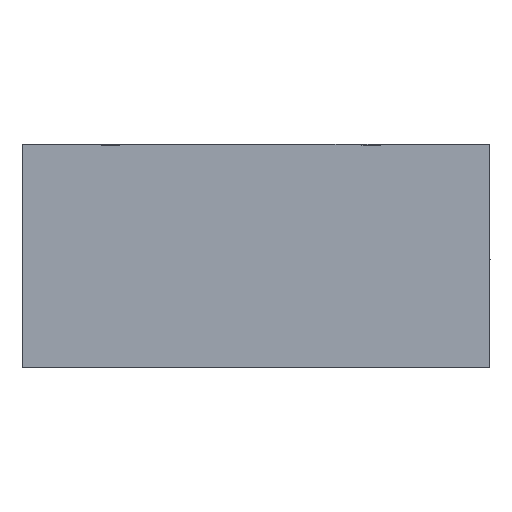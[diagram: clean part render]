
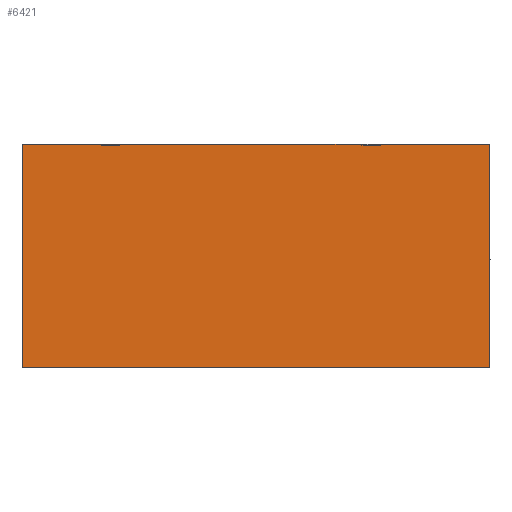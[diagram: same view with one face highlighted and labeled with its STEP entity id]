
A CAD part, front view. The second image highlights one B-rep face of the part: STEP entity #6421.
In plain terms, the highlighted planar face has unit normal (0, -1, 0).
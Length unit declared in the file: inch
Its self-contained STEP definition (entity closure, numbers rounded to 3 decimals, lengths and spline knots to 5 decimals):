
#101 = VECTOR ( 'NONE', #15093, 39.37008 ) ;
#365 = LINE ( 'NONE', #13727, #5560 ) ;
#399 = ORIENTED_EDGE ( 'NONE', *, *, #18158, .T. ) ;
#715 = ORIENTED_EDGE ( 'NONE', *, *, #3882, .T. ) ;
#789 = CARTESIAN_POINT ( 'NONE',  ( 0., 0., 0. ) ) ;
#1450 = CARTESIAN_POINT ( 'NONE',  ( 0., 0., -6. ) ) ;
#1492 = CARTESIAN_POINT ( 'NONE',  ( 2.15377, 0., 0. ) ) ;
#1662 = CARTESIAN_POINT ( 'NONE',  ( 12.56, 0., 0. ) ) ;
#1981 = VECTOR ( 'NONE', #7162, 39.37008 ) ;
#2869 = VERTEX_POINT ( 'NONE', #1450 ) ;
#3483 = ORIENTED_EDGE ( 'NONE', *, *, #4143, .T. ) ;
#3800 = LINE ( 'NONE', #13236, #14465 ) ;
#3825 = EDGE_CURVE ( 'NONE', #6532, #7103, #5928, .T. ) ;
#3882 = EDGE_CURVE ( 'NONE', #7296, #17667, #16649, .T. ) ;
#3936 = EDGE_CURVE ( 'NONE', #17288, #7296, #15765, .T. ) ;
#4056 = EDGE_CURVE ( 'NONE', #4846, #14322, #11623, .T. ) ;
#4118 = EDGE_CURVE ( 'NONE', #14322, #2869, #365, .T. ) ;
#4143 = EDGE_CURVE ( 'NONE', #11014, #2869, #3800, .T. ) ;
#4168 = EDGE_CURVE ( 'NONE', #7103, #15213, #10678, .T. ) ;
#4223 = CARTESIAN_POINT ( 'NONE',  ( 9.15377, 0., 0. ) ) ;
#4260 = VECTOR ( 'NONE', #6004, 39.37008 ) ;
#4386 = ORIENTED_EDGE ( 'NONE', *, *, #15629, .T. ) ;
#4421 = AXIS2_PLACEMENT_3D ( 'NONE', #15962, #15861, #15837 ) ;
#4446 = VECTOR ( 'NONE', #17037, 39.37008 ) ;
#4846 = VERTEX_POINT ( 'NONE', #5148 ) ;
#5148 = CARTESIAN_POINT ( 'NONE',  ( 12.56, 0., 0. ) ) ;
#5560 = VECTOR ( 'NONE', #13437, 39.37008 ) ;
#5928 = LINE ( 'NONE', #16776, #12894 ) ;
#6004 = DIRECTION ( 'NONE',  ( 0., 0., 1. ) ) ;
#6154 = CARTESIAN_POINT ( 'NONE',  ( 12.56, 0., -6. ) ) ;
#6421 = ADVANCED_FACE ( 'NONE', ( #7646 ), #15889, .F. ) ;
#6532 = VERTEX_POINT ( 'NONE', #14848 ) ;
#6728 = CARTESIAN_POINT ( 'NONE',  ( 12.56, 0., 0. ) ) ;
#7103 = VERTEX_POINT ( 'NONE', #11873 ) ;
#7162 = DIRECTION ( 'NONE',  ( -1., 0., 0. ) ) ;
#7296 = VERTEX_POINT ( 'NONE', #9967 ) ;
#7324 = VERTEX_POINT ( 'NONE', #9756 ) ;
#7412 = ORIENTED_EDGE ( 'NONE', *, *, #17715, .T. ) ;
#7646 = FACE_OUTER_BOUND ( 'NONE', #17098, .T. ) ;
#7877 = VECTOR ( 'NONE', #12835, 39.37008 ) ;
#8142 = ORIENTED_EDGE ( 'NONE', *, *, #17204, .T. ) ;
#8424 = DIRECTION ( 'NONE',  ( 0., 0., 1. ) ) ;
#8454 = CARTESIAN_POINT ( 'NONE',  ( 12.56, 0., 0. ) ) ;
#9011 = ORIENTED_EDGE ( 'NONE', *, *, #4056, .F. ) ;
#9135 = VECTOR ( 'NONE', #8424, 39.37008 ) ;
#9419 = ORIENTED_EDGE ( 'NONE', *, *, #3825, .T. ) ;
#9756 = CARTESIAN_POINT ( 'NONE',  ( 9.15377, 0., 0. ) ) ;
#9967 = CARTESIAN_POINT ( 'NONE',  ( 9.58623, 0., -0.031 ) ) ;
#10678 = LINE ( 'NONE', #12814, #7877 ) ;
#10883 = LINE ( 'NONE', #6728, #101 ) ;
#10953 = ORIENTED_EDGE ( 'NONE', *, *, #4168, .T. ) ;
#11014 = VERTEX_POINT ( 'NONE', #789 ) ;
#11055 = CARTESIAN_POINT ( 'NONE',  ( 2.15377, 0., -0.031 ) ) ;
#11266 = ORIENTED_EDGE ( 'NONE', *, *, #3936, .T. ) ;
#11623 = LINE ( 'NONE', #14236, #15396 ) ;
#11655 = LINE ( 'NONE', #15716, #4260 ) ;
#11869 = LINE ( 'NONE', #1662, #4446 ) ;
#11873 = CARTESIAN_POINT ( 'NONE',  ( 2.58623, 0., -0.031 ) ) ;
#11999 = ORIENTED_EDGE ( 'NONE', *, *, #17762, .T. ) ;
#12023 = VECTOR ( 'NONE', #15011, 39.37008 ) ;
#12464 = VECTOR ( 'NONE', #16012, 39.37008 ) ;
#12635 = CARTESIAN_POINT ( 'NONE',  ( 9.15377, 0., -0.031 ) ) ;
#12814 = CARTESIAN_POINT ( 'NONE',  ( 12.56, 0., -0.031 ) ) ;
#12835 = DIRECTION ( 'NONE',  ( -1., 0., 0. ) ) ;
#12844 = VERTEX_POINT ( 'NONE', #1492 ) ;
#12854 = DIRECTION ( 'NONE',  ( 0., 0., -1. ) ) ;
#12894 = VECTOR ( 'NONE', #16636, 39.37008 ) ;
#12970 = LINE ( 'NONE', #4223, #9135 ) ;
#13236 = CARTESIAN_POINT ( 'NONE',  ( 0., 0., 0. ) ) ;
#13437 = DIRECTION ( 'NONE',  ( -1., 0., 0. ) ) ;
#13531 = ORIENTED_EDGE ( 'NONE', *, *, #4118, .F. ) ;
#13635 = LINE ( 'NONE', #8454, #1981 ) ;
#13727 = CARTESIAN_POINT ( 'NONE',  ( 12.56, 0., -6. ) ) ;
#14236 = CARTESIAN_POINT ( 'NONE',  ( 12.56, 0., 0. ) ) ;
#14255 = DIRECTION ( 'NONE',  ( 0., 0., -1. ) ) ;
#14322 = VERTEX_POINT ( 'NONE', #6154 ) ;
#14465 = VECTOR ( 'NONE', #12854, 39.37008 ) ;
#14848 = CARTESIAN_POINT ( 'NONE',  ( 2.58623, 0., 0. ) ) ;
#14979 = CARTESIAN_POINT ( 'NONE',  ( 9.58623, 0., 0. ) ) ;
#15011 = DIRECTION ( 'NONE',  ( 0., 0., -1. ) ) ;
#15093 = DIRECTION ( 'NONE',  ( -1., 0., 0. ) ) ;
#15213 = VERTEX_POINT ( 'NONE', #11055 ) ;
#15254 = CARTESIAN_POINT ( 'NONE',  ( 12.56, 0., -0.031 ) ) ;
#15396 = VECTOR ( 'NONE', #14255, 39.37008 ) ;
#15629 = EDGE_CURVE ( 'NONE', #17667, #7324, #12970, .T. ) ;
#15716 = CARTESIAN_POINT ( 'NONE',  ( 2.15377, 0., 0. ) ) ;
#15765 = LINE ( 'NONE', #14979, #12023 ) ;
#15837 = DIRECTION ( 'NONE',  ( 0., 0., 1. ) ) ;
#15861 = DIRECTION ( 'NONE',  ( 0., 1., 0. ) ) ;
#15889 = PLANE ( 'NONE',  #4421 ) ;
#15962 = CARTESIAN_POINT ( 'NONE',  ( 12.56, 0., 0. ) ) ;
#16012 = DIRECTION ( 'NONE',  ( -1., 0., 0. ) ) ;
#16146 = CARTESIAN_POINT ( 'NONE',  ( 9.58623, 0., 0. ) ) ;
#16636 = DIRECTION ( 'NONE',  ( 0., 0., -1. ) ) ;
#16649 = LINE ( 'NONE', #15254, #12464 ) ;
#16776 = CARTESIAN_POINT ( 'NONE',  ( 2.58623, 0., 0. ) ) ;
#17037 = DIRECTION ( 'NONE',  ( -1., 0., 0. ) ) ;
#17098 = EDGE_LOOP ( 'NONE', ( #10953, #8142, #399, #3483, #13531, #9011, #11999, #11266, #715, #4386, #7412, #9419 ) ) ;
#17204 = EDGE_CURVE ( 'NONE', #15213, #12844, #11655, .T. ) ;
#17288 = VERTEX_POINT ( 'NONE', #16146 ) ;
#17667 = VERTEX_POINT ( 'NONE', #12635 ) ;
#17715 = EDGE_CURVE ( 'NONE', #7324, #6532, #13635, .T. ) ;
#17762 = EDGE_CURVE ( 'NONE', #4846, #17288, #11869, .T. ) ;
#18158 = EDGE_CURVE ( 'NONE', #12844, #11014, #10883, .T. ) ;
